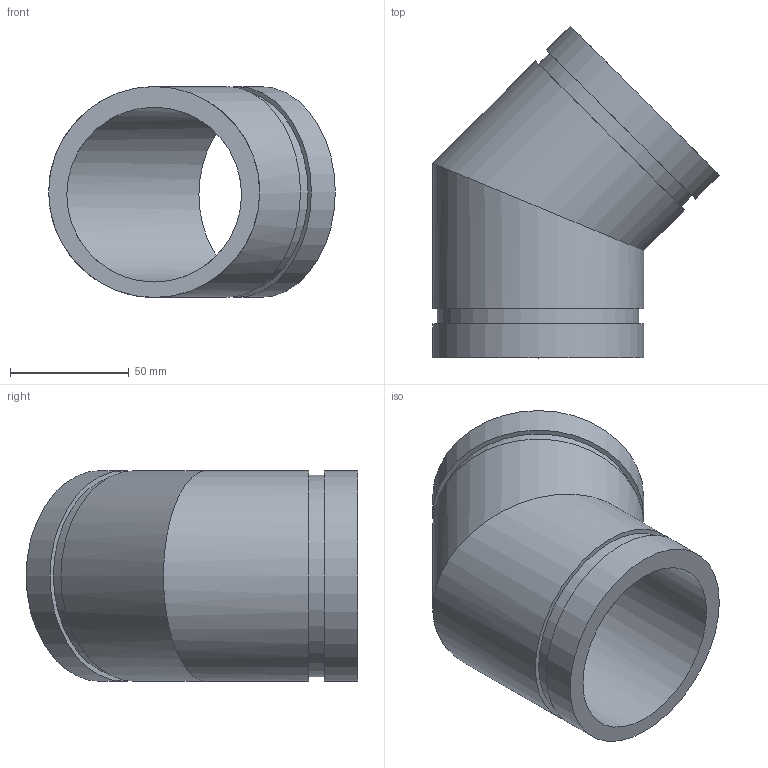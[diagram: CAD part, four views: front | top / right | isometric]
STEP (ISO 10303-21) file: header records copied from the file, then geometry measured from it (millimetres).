
FILE_DESCRIPTION(/* description */ ('VIC 45 DEG. EXTRA HEAVY ELBOW No 63-ES','CAx-IF Rec.Pracs.---Representation and Presentation of Product Manufacturing Information (PMI)---4.0---2014-10-13'),/* implementation_level */ '2;1');
FILE_NAME(/* name */ 'C:\Users\kkamble\AppData\Roaming\Autodesk\ApplicationPlugins\Back Up\Victaulic_IPS-EndSeal_Elbow 45 Deg LR_No 63-ES (ESG)\Victaulic_IPS-EndSeal_Elbow 45 Deg LR_No 63-ES (ESG)_3 (80).stp',/* time_stamp */ '2020-08-04T18:51:30+05:00',/* author */ ('cgray'),/* organization */ ('Victaulic'),/* preprocessor_version */ 'ST-DEVELOPER v17.2',/* originating_system */ 'Autodesk Inventor 2019',/* authorisation */ '');
FILE_SCHEMA (('AP242_MANAGED_MODEL_BASED_3D_ENGINEERING_MIM_LF { 1 0 10303 442 1 1 4 }'));
Length unit declared in the file: inch
Products named in the file (1): 63-ES-03.0
Bounding box: 120.78 x 139.83 x 88.9 mm (x, y, z)
Volume: 240103.1 mm3; surface area: 70752.8 mm2
Topology: 1 solids, 1 shells, 14 faces, 30 edges, 22 vertices
Faces by surface type: cylinder 8, plane 6
Full cylindrical faces by diameter (mm): 73.66 x2, 84.938 x2, 88.9 x4
Entity records: 554 total; most frequent: DIRECTION 108, CARTESIAN_POINT 84, ORIENTED_EDGE 60, AXIS2_PLACEMENT_3D 50, EDGE_CURVE 30, VERTEX_POINT 22, EDGE_LOOP 20, CIRCLE 16
